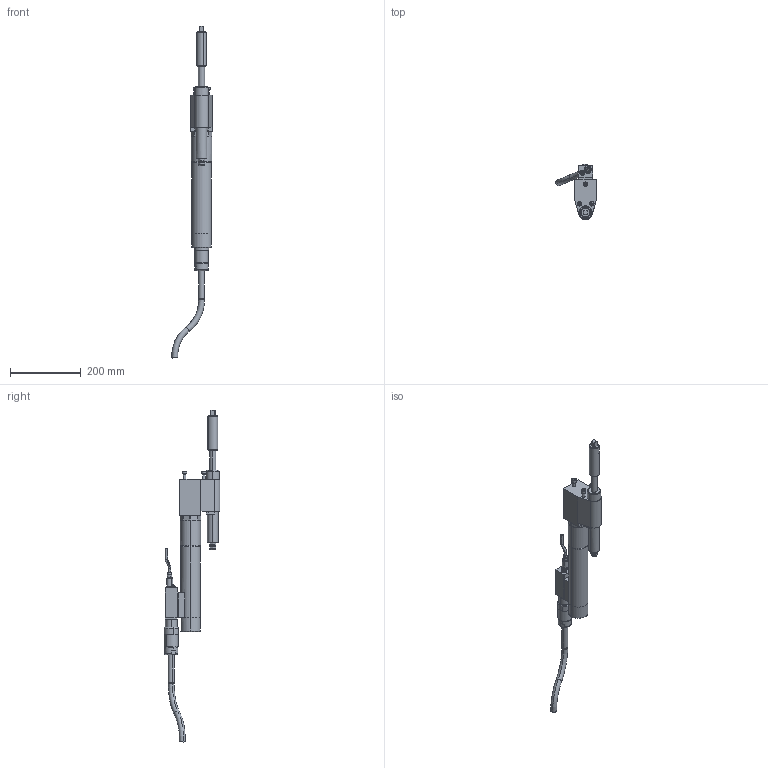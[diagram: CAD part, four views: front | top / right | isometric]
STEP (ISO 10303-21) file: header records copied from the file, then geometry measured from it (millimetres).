
FILE_DESCRIPTION(('CATIA V5 STEP Exchange'),'2;1');
FILE_NAME('C:\pro\7920171_ECR205_AOD250-63_AllCATPart.stp','2008-11-10T09:30:07+00:00',('none'),('none'),'CATIA Version 5 Release 17 (IN-10)','CATIA V5 STEP AP203','none');
FILE_SCHEMA(('CONFIG_CONTROL_DESIGN'));
Length unit declared in the file: millimetre
Products named in the file (1): 7920171_ECR205_AOD250-63_AllCATPart
Bounding box: 113.82 x 157.13 x 938.06 mm (x, y, z)
Volume: 1920566.4 mm3; surface area: 202504 mm2
Topology: 12 solids, 12 shells, 364 faces, 828 edges, 515 vertices
Faces by surface type: plane 154, cylinder 126, cone 50, torus 34
Entity records: 9573 total; most frequent: CARTESIAN_POINT 1893, ORIENTED_EDGE 1636, DIRECTION 1328, EDGE_CURVE 818, AXIS2_PLACEMENT_3D 650, VERTEX_POINT 515, VECTOR 408, LINE 408
